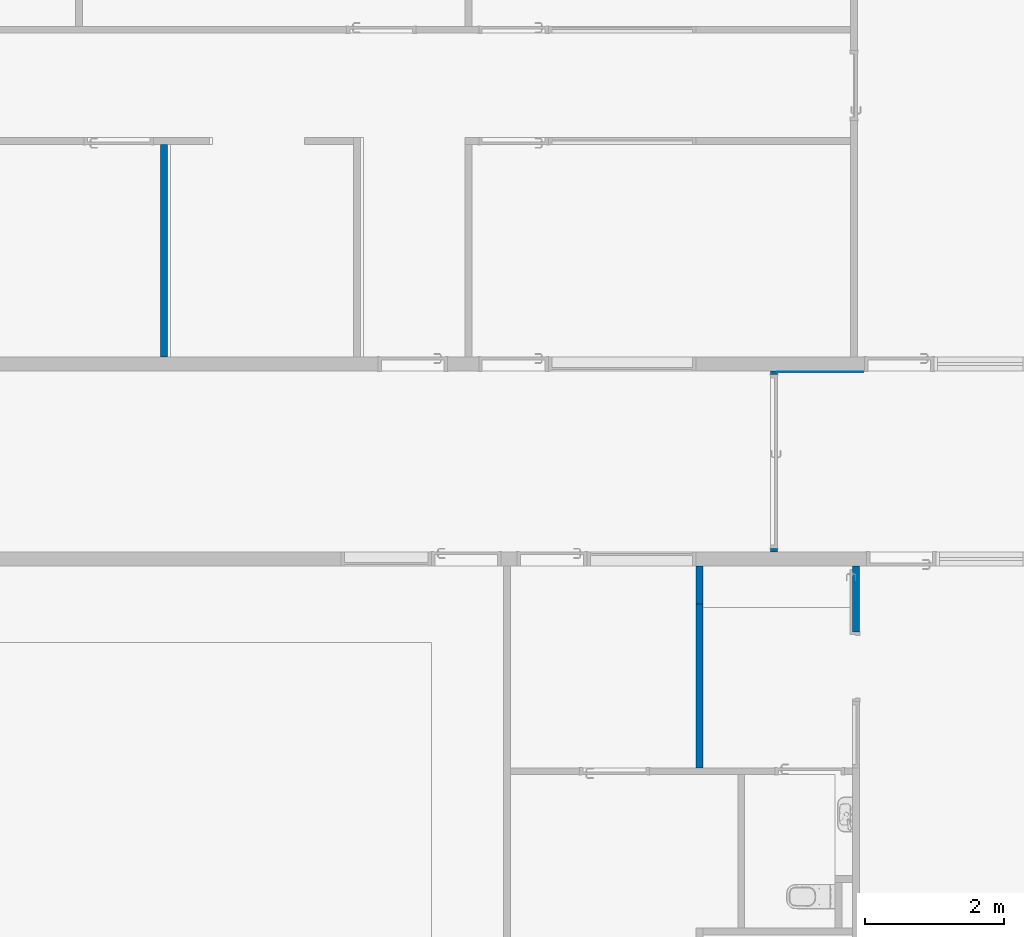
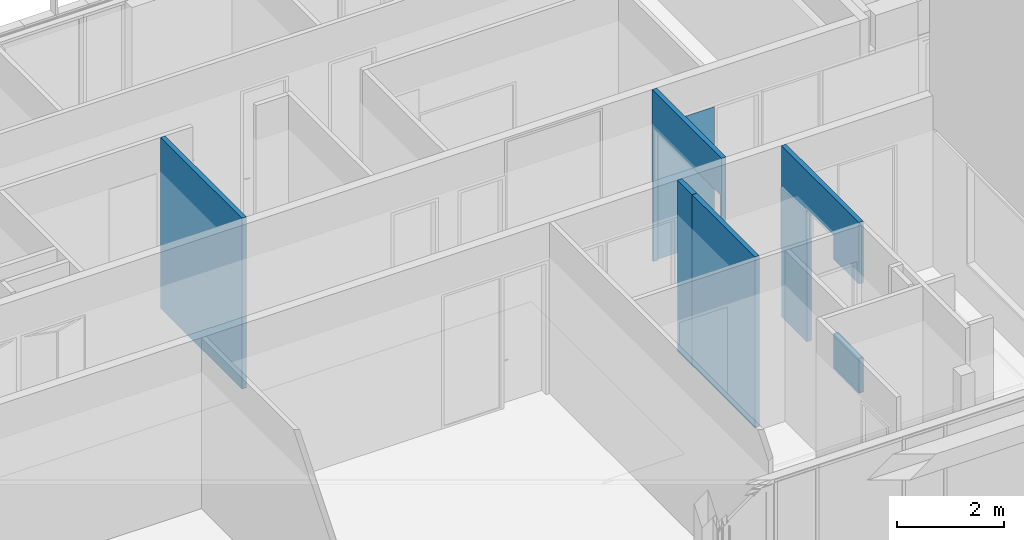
# One storey, part 151 of 240: 6 walls, 3 openings.
"""IFC2X3 building model written with IfcOpenShell, lengths in centimetres."""

from ifc_helpers import new_model, entity, si_unit, converted_unit, derived_unit, direction, frame, frame_2d, origin, place, context, subcontext, project, spatial, polyline, rectangle, extrude, clip, bounded_halfspace, material, layer, layer_set, layer_usage, type_object, element, save


model = new_model("IFC2X3")

# Units and contexts
model_context = context("Model", 3, precision=0.001, world=origin(), true_north=direction((6.12303176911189e-17, 1.0)))
body_context = subcontext(model_context, "Body", "Model", "MODEL_VIEW")
ifc_project = project(units=[si_unit("LENGTHUNIT", "METRE", prefix="CENTI"), si_unit("AREAUNIT", "SQUARE_METRE"), si_unit("VOLUMEUNIT", "CUBIC_METRE"), converted_unit("PLANEANGLEUNIT", "DEGREE", entity("IfcRatioMeasure", 0.0174532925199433), si_unit("PLANEANGLEUNIT", "RADIAN"), dimensions=[0, 0, 0, 0, 0, 0, 0]), si_unit("MASSUNIT", "GRAM", prefix="KILO"), derived_unit("MASSDENSITYUNIT", [(si_unit("MASSUNIT", "GRAM", prefix="KILO"), 1), (si_unit("LENGTHUNIT", "METRE"), -3)]), si_unit("TIMEUNIT", "SECOND"), si_unit("FREQUENCYUNIT", "HERTZ"), si_unit("THERMODYNAMICTEMPERATUREUNIT", "DEGREE_CELSIUS"), derived_unit("THERMALTRANSMITTANCEUNIT", [(si_unit("MASSUNIT", "GRAM", prefix="KILO"), 1), (si_unit("THERMODYNAMICTEMPERATUREUNIT", "KELVIN"), -1), (si_unit("TIMEUNIT", "SECOND"), -3)]), derived_unit("VOLUMETRICFLOWRATEUNIT", [(si_unit("LENGTHUNIT", "METRE"), 3), (si_unit("TIMEUNIT", "SECOND"), -1)]), si_unit("ELECTRICCURRENTUNIT", "AMPERE"), si_unit("ELECTRICVOLTAGEUNIT", "VOLT"), si_unit("POWERUNIT", "WATT"), si_unit("FORCEUNIT", "NEWTON", prefix="KILO"), si_unit("ILLUMINANCEUNIT", "LUX"), si_unit("LUMINOUSFLUXUNIT", "LUMEN"), si_unit("LUMINOUSINTENSITYUNIT", "CANDELA"), derived_unit("USERDEFINED", [(si_unit("MASSUNIT", "GRAM", prefix="KILO"), -1), (si_unit("LENGTHUNIT", "METRE"), -2), (si_unit("TIMEUNIT", "SECOND"), 3), (si_unit("LUMINOUSFLUXUNIT", "LUMEN"), 1)]), derived_unit("LINEARVELOCITYUNIT", [(si_unit("LENGTHUNIT", "METRE"), 1), (si_unit("TIMEUNIT", "SECOND"), -1)]), si_unit("PRESSUREUNIT", "PASCAL"), derived_unit("USERDEFINED", [(si_unit("LENGTHUNIT", "METRE"), -2), (si_unit("MASSUNIT", "GRAM", prefix="KILO"), 1), (si_unit("TIMEUNIT", "SECOND"), -2)])], contexts=[model_context])

# Site, building, storey
site_placement = place(None, frame((-2781.94577612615, 7442.24238424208, 0.0)))
site = spatial("IfcSite", under=ifc_project, at=site_placement, Name="Default", CompositionType="ELEMENT")
building_placement = place(site_placement, origin())
building = spatial("IfcBuilding", under=site, at=building_placement, CompositionType="ELEMENT")
storey_placement = place(building_placement, origin())
storey = spatial("IfcBuildingStorey", under=building, at=storey_placement, Name="N00 - COO", CompositionType="ELEMENT", Elevation=0.0)

# Walls
ifc_material_1 = material(Name="01 - Enduit/Plâtre")
ifc_layer_1 = layer(ifc_material_1, 1.3)
ifc_material_2 = material(Name="00 - Isolant")
ifc_layer_2 = layer(ifc_material_2, 7.4)
ifc_layer_3 = layer(ifc_material_1, 1.3)
ifc_layer_set_1 = layer_set([ifc_layer_1, ifc_layer_2, ifc_layer_3], Name="Mur de base:06 - cloisons - Ba13 10cm")
ifc_layer_usage_1 = layer_usage(ifc_layer_set_1, "AXIS2", "NEGATIVE", 5.0)
wall_type_1 = type_object("IfcWallType", Name="Mur de base:06 - cloisons - Ba13 10cm", PredefinedType="STANDARD", material=ifc_layer_set_1)
wall_1_placement = place(building_placement, frame((-6108.49987760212, -505.0, 0.0), z_axis=(0.0, 0.0, 1.0), x_axis=(0.0, -1.0, 0.0)))
element("IfcWallStandardCase", 1, at=wall_1_placement, inside=storey, type_object=wall_type_1, material=ifc_layer_usage_1, Name="Mur de base:06 - cloisons - Ba13 10cm", ObjectType="Mur de base:06 - cloisons - Ba13 10cm", context=body_context, shape_type="Clipping", body=[
    clip(extrude(rectangle(XDim=305.048500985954, YDim=9.99999999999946, at=frame_2d((152.524250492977, 7.54951656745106e-15), x_axis=(-1.0, 0.0))), origin(), (0.0, 0.0, 1.0), 391.0), bounded_halfspace(frame((0.0, -5.0, 391.0), z_axis=(0.0, 0.0, -1.0), x_axis=(-1.0, 0.0, 0.0)), True, frame((0.0, -5.0, 391.0)), polyline([(0.0, 0.0), (305.048500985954, 0.0), (305.048500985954, 10.0), (0.0, 10.0), (0.0, 0.0)]))),
])
ifc_layer_usage_2 = layer_usage(ifc_layer_set_1, "AXIS2", "NEGATIVE", 5.0)
wall_2_placement = place(building_placement, frame((-5339.49987760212, -1110.0, 0.0), z_axis=(0.0, 0.0, 1.0), x_axis=(0.0, -1.0, 0.0)))
element("IfcWallStandardCase", 2, at=wall_2_placement, inside=storey, type_object=wall_type_1, material=ifc_layer_usage_2, Name="Mur de base:06 - cloisons - Ba13 10cm", ObjectType="Mur de base:06 - cloisons - Ba13 10cm", context=body_context, shape_type="Clipping", body=[
    clip(extrude(rectangle(XDim=55.0000000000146, YDim=9.99999999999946, at=frame_2d((27.5000000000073, 0.0), x_axis=(-1.0, 0.0))), origin(), (0.0, 0.0, 1.0), 391.0), bounded_halfspace(frame((0.0, -5.0, 391.0), z_axis=(0.0, 0.0, -1.0), x_axis=(-1.0, 0.0, 0.0)), True, frame((0.0, -5.0, 391.0)), polyline([(0.0, 0.0), (55.0, 0.0), (55.0, 10.0), (0.0, 10.0), (0.0, 0.0)]))),
])

# Wall, openings
ifc_layer_usage_3 = layer_usage(ifc_layer_set_1, "AXIS2", "NEGATIVE", 5.0)
wall_3_placement = place(building_placement, frame((-5114.49987760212, -1110.0, 0.0), z_axis=(0.0, 0.0, 1.0), x_axis=(0.0, -1.0, 0.0)))
wall_3 = element("IfcWallStandardCase", 3, at=wall_3_placement, inside=storey, type_object=wall_type_1, material=ifc_layer_usage_3, Name="Mur de base:06 - cloisons - Ba13 10cm", ObjectType="Mur de base:06 - cloisons - Ba13 10cm", context=body_context, shape_type="Clipping", body=[
    clip(extrude(rectangle(XDim=290.000000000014, YDim=9.99999999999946, at=frame_2d((145.000000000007, 1.57207580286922e-13), x_axis=(-1.0, 0.0))), origin(), (0.0, 0.0, 1.0), 391.0), bounded_halfspace(frame((0.0, -5.0, 391.0), z_axis=(0.0, 0.0, -1.0), x_axis=(-1.0, 0.0, 0.0)), True, frame((0.0, -5.0, 391.0)), polyline([(0.0, 0.0), (290.0, 0.0), (290.0, 10.0), (0.0, 10.0), (0.0, 0.0)]))),
])
opening_1_placement = place(wall_3_placement, frame((195.0, 5.0, 0.0)))
element("IfcOpeningElement", 4, at=opening_1_placement, cuts=wall_3, Name="Int. Simple:PV (0.93m x 3.00m):1", ObjectType="Opening", context=body_context, shape_type="SweptSolid", body=[
    extrude(rectangle(XDim=304.500000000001, YDim=99.9999999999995, at=frame_2d((152.250000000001, 49.9999999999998), x_axis=(1.0, 0.0))), frame((0.0, 0.0, 0.0), z_axis=(0.0, -1.0, 0.0), x_axis=(0.0, 0.0, 1.0)), (0.0, 0.0, 1.0), 10.0),
])
opening_2_placement = place(wall_3_placement, frame((290.0, 5.0, 80.0)))
element("IfcOpeningElement", 5, at=opening_2_placement, cuts=wall_3, Name="châssis intérieur vitré:châssis intérieur vitré (h=170):1", ObjectType="Opening", context=body_context, shape_type="SweptSolid", body=[
    extrude(rectangle(XDim=170.0, YDim=94.9999999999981, at=frame_2d((84.9999999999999, 47.4999999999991), x_axis=(1.0, 0.0))), frame((0.0, 0.0, 0.0), z_axis=(0.0, -1.0, 0.0), x_axis=(0.0, 0.0, 1.0)), (0.0, 0.0, 1.0), 10.0),
])

# Wall
ifc_layer_usage_4 = layer_usage(ifc_layer_set_1, "AXIS2", "NEGATIVE", 5.0)
wall_4_placement = place(building_placement, frame((-5339.49987760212, -1165.0, 0.0), z_axis=(0.0, 0.0, 1.0), x_axis=(0.0, -1.0, 0.0)))
element("IfcWallStandardCase", 6, at=wall_4_placement, inside=storey, type_object=wall_type_1, material=ifc_layer_usage_4, Name="Mur de base:06 - cloisons - Ba13 10cm", ObjectType="Mur de base:06 - cloisons - Ba13 10cm", context=body_context, shape_type="Clipping", body=[
    clip(extrude(rectangle(XDim=235.0, YDim=9.99999999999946, at=frame_2d((117.5, 0.0), x_axis=(-1.0, 0.0))), origin(), (0.0, 0.0, 1.0), 391.0), bounded_halfspace(frame((0.0, -5.0, 391.0), z_axis=(0.0, 0.0, -1.0), x_axis=(-1.0, 0.0, 0.0)), True, frame((0.0, -5.0, 391.0)), polyline([(0.0, 0.0), (235.0, 0.0), (235.0, 10.0), (0.0, 10.0), (0.0, 0.0)]))),
])

# Wall, opening
ifc_layer_usage_5 = layer_usage(ifc_layer_set_1, "AXIS2", "NEGATIVE", 5.0)
wall_5_placement = place(building_placement, frame((-5232.49987760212, -830.048500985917, 0.0), z_axis=(0.0, 0.0, 1.0), x_axis=(0.0, -1.0, 0.0)))
wall_5 = element("IfcWallStandardCase", 7, at=wall_5_placement, inside=storey, type_object=wall_type_1, material=ifc_layer_usage_5, Name="Mur de base:06 - cloisons - Ba13 10cm", ObjectType="Mur de base:06 - cloisons - Ba13 10cm", context=body_context, shape_type="SweptSolid", body=[
    extrude(rectangle(XDim=259.95149891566, YDim=9.99999999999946, at=frame_2d((129.97574945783, 0.0), x_axis=(-1.0, 0.0))), origin(), (0.0, 0.0, 1.0), 391.0),
])
opening_3_placement = place(wall_5_placement, frame((4.97574945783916, -5.0, 0.0)))
element("IfcOpeningElement", 8, at=opening_3_placement, cuts=wall_5, Name="Int. Double:PV (2.50m x 3.06m):1", ObjectType="Opening", context=body_context, shape_type="SweptSolid", body=[
    extrude(rectangle(XDim=304.500000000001, YDim=250.0, at=frame_2d((152.250000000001, 125.0), x_axis=(1.0, 0.0))), frame((0.0, 0.0, 0.0), z_axis=(0.0, 1.0, 0.0), x_axis=(0.0, 0.0, 1.0)), (0.0, 0.0, 1.0), 10.0),
])

# Wall
ifc_material_3 = material(Name="Bois CP hachures")
ifc_layer_4 = layer(ifc_material_3, 1.0)
ifc_layer_set_2 = layer_set([ifc_layer_4], Name="Mur de base:04 - Parement - CP collé 1cm")
ifc_layer_usage_6 = layer_usage(ifc_layer_set_2, "AXIS2", "NEGATIVE", 0.5)
wall_type_2 = type_object("IfcWallType", Name="Mur de base:04 - Parement - CP collé 1cm", PredefinedType="STANDARD", material=ifc_layer_set_2)
wall_6_placement = place(storey_placement, frame((-5227.49987760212, -831.548500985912, 0.0)))
element("IfcWallStandardCase", 9, at=wall_6_placement, inside=storey, type_object=wall_type_2, material=ifc_layer_usage_6, Name="Mur de base:04 - Parement - CP collé 1cm", ObjectType="Mur de base:04 - Parement - CP collé 1cm", context=body_context, shape_type="SweptSolid", body=[
    extrude(rectangle(XDim=123.499999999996, YDim=0.999999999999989, at=frame_2d((61.7499999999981, -2.4008572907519e-14), x_axis=(-1.0, 0.0))), origin(), (0.0, 0.0, 1.0), 306.0),
])

save(model, "model.ifc")
